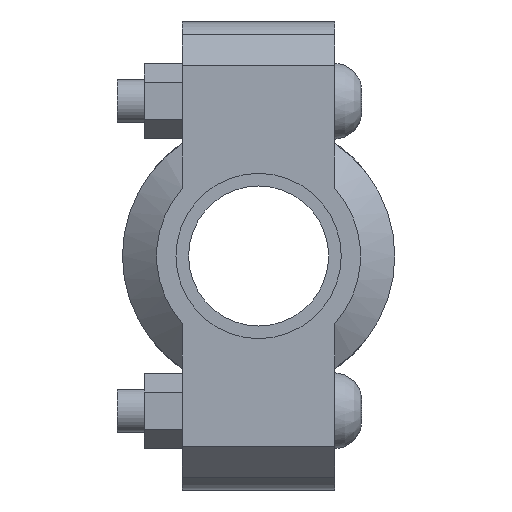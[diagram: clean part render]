
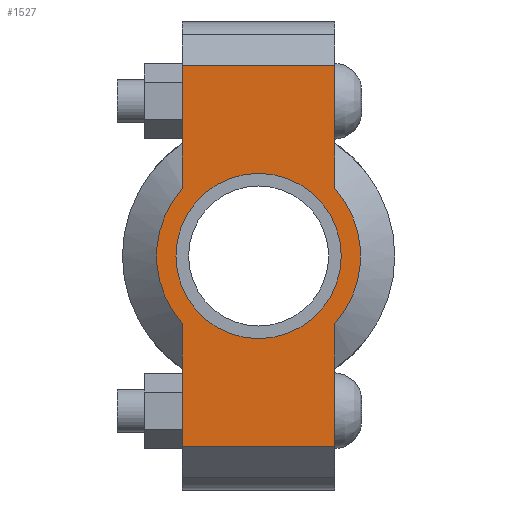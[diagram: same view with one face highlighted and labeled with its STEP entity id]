
A CAD part, left-side view. The second image highlights one B-rep face of the part: STEP entity #1527.
In plain terms, the highlighted planar face has unit normal (-1, 0, 0) as drawn and (0, 0, 1) by its records, which use the part's own axes.
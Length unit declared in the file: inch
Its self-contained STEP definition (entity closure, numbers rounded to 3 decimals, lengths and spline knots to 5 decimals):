
#138=LINE('',#2623,#233);
#153=LINE('',#2682,#248);
#161=LINE('',#2712,#256);
#163=LINE('',#2715,#258);
#164=LINE('',#2720,#259);
#165=LINE('',#2721,#260);
#233=VECTOR('',#2121,0.3937);
#248=VECTOR('',#2156,0.3937);
#256=VECTOR('',#2176,0.3937);
#258=VECTOR('',#2180,0.3937);
#259=VECTOR('',#2185,0.3937);
#260=VECTOR('',#2186,0.3937);
#320=FACE_BOUND('',#479,.T.);
#380=FACE_OUTER_BOUND('',#478,.T.);
#478=EDGE_LOOP('',(#1222,#1223,#1224,#1225,#1226,#1227,#1228,#1229));
#479=EDGE_LOOP('',(#1230));
#584=CIRCLE('',#1790,1.172);
#585=CIRCLE('',#1791,1.172);
#586=CIRCLE('',#1792,0.95);
#693=VERTEX_POINT('',#2620);
#694=VERTEX_POINT('',#2622);
#715=VERTEX_POINT('',#2677);
#716=VERTEX_POINT('',#2681);
#725=VERTEX_POINT('',#2707);
#726=VERTEX_POINT('',#2711);
#727=VERTEX_POINT('',#2717);
#728=VERTEX_POINT('',#2719);
#729=VERTEX_POINT('',#2723);
#863=EDGE_CURVE('',#694,#693,#138,.T.);
#888=EDGE_CURVE('',#716,#715,#153,.T.);
#901=EDGE_CURVE('',#726,#725,#161,.T.);
#903=EDGE_CURVE('',#726,#693,#163,.T.);
#904=EDGE_CURVE('',#725,#727,#584,.T.);
#905=EDGE_CURVE('',#727,#728,#164,.T.);
#906=EDGE_CURVE('',#716,#728,#165,.T.);
#907=EDGE_CURVE('',#715,#694,#585,.T.);
#908=EDGE_CURVE('',#729,#729,#586,.T.);
#1222=ORIENTED_EDGE('',*,*,#903,.F.);
#1223=ORIENTED_EDGE('',*,*,#901,.T.);
#1224=ORIENTED_EDGE('',*,*,#904,.T.);
#1225=ORIENTED_EDGE('',*,*,#905,.T.);
#1226=ORIENTED_EDGE('',*,*,#906,.F.);
#1227=ORIENTED_EDGE('',*,*,#888,.T.);
#1228=ORIENTED_EDGE('',*,*,#907,.T.);
#1229=ORIENTED_EDGE('',*,*,#863,.T.);
#1230=ORIENTED_EDGE('',*,*,#908,.T.);
#1379=PLANE('',#1789);
#1527=ADVANCED_FACE('',(#380,#320),#1379,.T.);
#1789=AXIS2_PLACEMENT_3D('',#2716,#2181,#2182);
#1790=AXIS2_PLACEMENT_3D('',#2718,#2183,#2184);
#1791=AXIS2_PLACEMENT_3D('',#2722,#2187,#2188);
#1792=AXIS2_PLACEMENT_3D('',#2724,#2189,#2190);
#2121=DIRECTION('',(1.,0.,0.));
#2156=DIRECTION('',(1.,0.,0.));
#2176=DIRECTION('',(-1.,0.,0.));
#2180=DIRECTION('',(0.,-1.,0.));
#2181=DIRECTION('center_axis',(0.,0.,1.));
#2182=DIRECTION('ref_axis',(-1.,0.,0.));
#2183=DIRECTION('center_axis',(0.,0.,1.));
#2184=DIRECTION('ref_axis',(1.,0.,0.));
#2185=DIRECTION('',(-1.,0.,0.));
#2186=DIRECTION('',(0.,1.,0.));
#2187=DIRECTION('center_axis',(0.,0.,1.));
#2188=DIRECTION('ref_axis',(1.,0.,0.));
#2189=DIRECTION('center_axis',(0.,0.,-1.));
#2190=DIRECTION('ref_axis',(1.,0.,0.));
#2620=CARTESIAN_POINT('',(2.19,-0.875,0.94));
#2622=CARTESIAN_POINT('',(0.77972,-0.875,0.94));
#2623=CARTESIAN_POINT('',(-2.69,-0.875,0.94));
#2677=CARTESIAN_POINT('',(-0.77972,-0.875,0.94));
#2681=CARTESIAN_POINT('',(-2.19,-0.875,0.94));
#2682=CARTESIAN_POINT('',(-2.69,-0.875,0.94));
#2707=CARTESIAN_POINT('',(0.77972,0.875,0.94));
#2711=CARTESIAN_POINT('',(2.19,0.875,0.94));
#2712=CARTESIAN_POINT('',(2.69,0.875,0.94));
#2715=CARTESIAN_POINT('',(2.19,-0.4375,0.94));
#2716=CARTESIAN_POINT('Origin',(0.,0.,
0.94));
#2717=CARTESIAN_POINT('',(-0.77972,0.875,0.94));
#2718=CARTESIAN_POINT('Origin',(0.,0.,0.94));
#2719=CARTESIAN_POINT('',(-2.19,0.875,0.94));
#2720=CARTESIAN_POINT('',(2.69,0.875,0.94));
#2721=CARTESIAN_POINT('',(-2.19,0.4375,0.94));
#2722=CARTESIAN_POINT('Origin',(0.,0.,0.94));
#2723=CARTESIAN_POINT('',(-0.95,0.,0.94));
#2724=CARTESIAN_POINT('Origin',(0.,0.,0.94));
